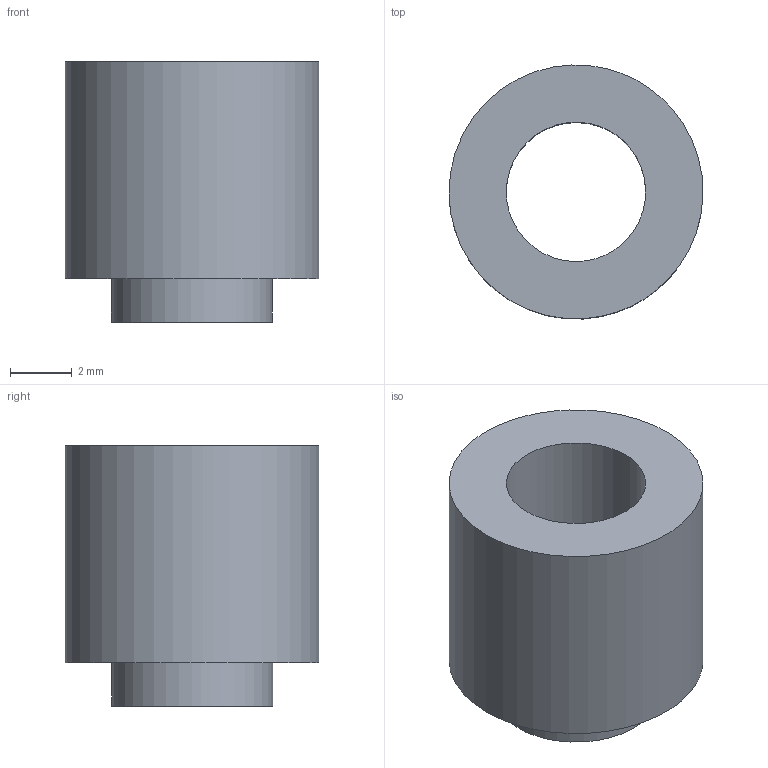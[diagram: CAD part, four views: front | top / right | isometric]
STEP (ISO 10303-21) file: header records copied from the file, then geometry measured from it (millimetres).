
FILE_DESCRIPTION(('FreeCAD Model'),'2;1');
FILE_NAME('Open CASCADE Shape Model','2026-03-20T17:23:22',('Author'),( ''),'Open CASCADE STEP processor 7.8','FreeCAD','Unknown');
FILE_SCHEMA(('AP242_MANAGED_MODEL_BASED_3D_ENGINEERING_MIM_LF. {1 0 10303 442 1 1 4 }'));
Length unit declared in the file: millimetre
Products named in the file (1): 1_transformed
Bounding box: 8.2 x 8.19 x 8.4 mm (x, y, z)
Volume: 268 mm3; surface area: 396.6 mm2
Topology: 1 solids, 1 shells, 6 faces, 9 edges, 6 vertices
Faces by surface type: bspline 6
Entity records: 201 total; most frequent: CARTESIAN_POINT 109, ORIENTED_EDGE 18, FACE_BOUND 9, EDGE_LOOP 9, EDGE_CURVE 9, ADVANCED_FACE 6, VERTEX_POINT 6, B_SPLINE_CURVE_WITH_KNOTS 3
